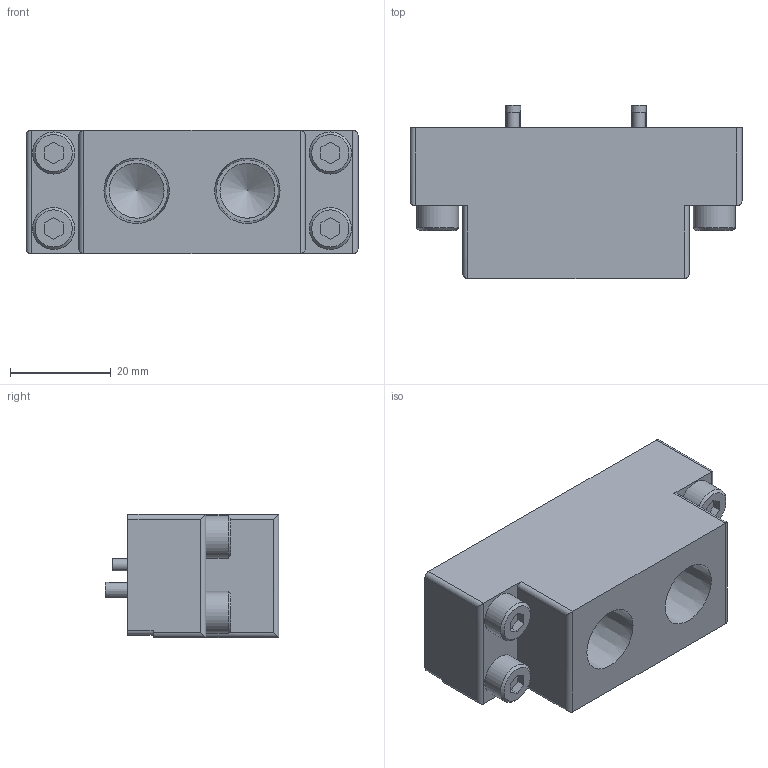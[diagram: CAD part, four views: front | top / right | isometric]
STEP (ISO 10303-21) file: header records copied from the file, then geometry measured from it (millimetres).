
FILE_DESCRIPTION(('STEP AP214'),'1');
FILE_NAME('KHF-12RS-EP82_ver1.stp','2026-04-27T04:21:49',(' '),(' '),'Spatial InterOp 3D',' ',' ');
FILE_SCHEMA(('AUTOMOTIVE_DESIGN { 1 0 10303 214 1 1 1 1 }'));
Length unit declared in the file: millimetre
Products named in the file (1): KHF-12RS-EP82_ver1
Bounding box: 66 x 34.5 x 24.5 mm (x, y, z)
Volume: 35919.5 mm3; surface area: 12531.9 mm2
Topology: 1 solids, 11 shells, 156 faces, 333 edges, 221 vertices
Faces by surface type: plane 96, cylinder 44, cone 16
Full cylindrical faces by diameter (mm): 2.5 x4, 3.5 x2, 4 x2, 4.2 x4, 5.41 x2, 5.5 x4, 6.5 x2, 8.385 x4, 9 x2, 10.9 x2
Entity records: 5224 total; most frequent: CARTESIAN_POINT 789, DIRECTION 678, ORIENTED_EDGE 530, EDGE_CURVE 265, AXIS2_PLACEMENT_3D 258, EDGE_LOOP 236, VERTEX_POINT 201, FACE_OUTER_BOUND 184
